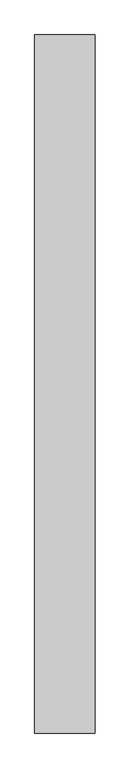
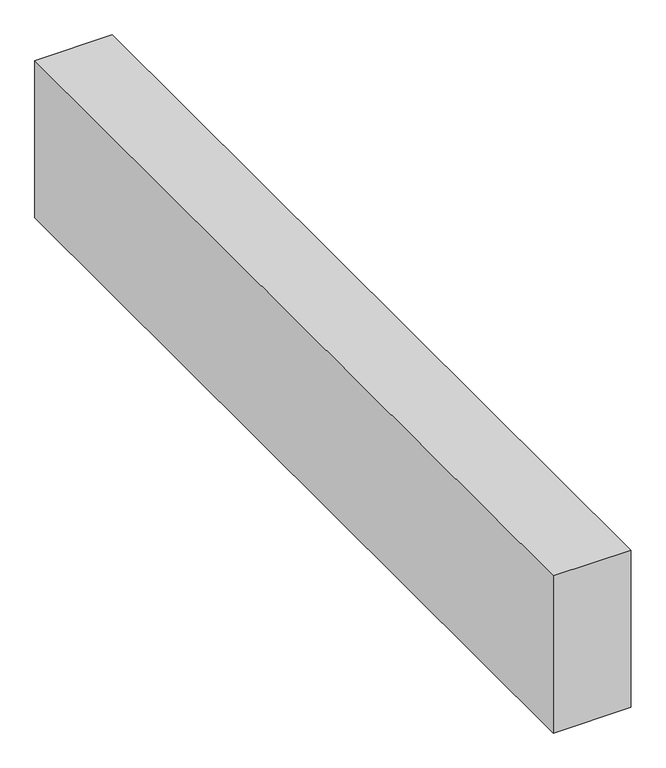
"""IFC4 building model written with IfcOpenShell, lengths in millimetres: proxy geometry."""

from ifc_helpers import new_model, si_unit, frame, origin, place, context, project, spatial, polyline, outline, extrude, source, transform, mapped, element, save


def structural_framing_72c06edc(model_context):
    return source(origin(), model_context, "Body", "SweptSolid", [
        extrude(outline(polyline([(70.0, -811.2), (-70.0, -811.2), (-70.0, 811.2), (70.0, 811.2), (70.0, -811.2)])), frame((0.0, 0.0, -300.0), z_axis=(0.0, 0.0, 1.0), x_axis=(1.0, 0.0, 0.0)), (0.0, 0.0, 1.0), 300.0),
    ])


if __name__ == "__main__":
    model = new_model("IFC4")
    model_context = context("Model", 3, world=origin())
    ifc_project = project(units=[si_unit("LENGTHUNIT", "METRE", prefix="MILLI")], contexts=[model_context])
    site = spatial("IfcSite", under=ifc_project)
    building = spatial("IfcBuilding", under=site)
    placement = place(None, origin())
    structural_framing_shape = structural_framing_72c06edc(model_context)
    element("IfcBuildingElementProxy", 1, Name="Structural Framing", at=placement, inside=building, context=model_context, shape_type="MappedRepresentation", body=[
        mapped(structural_framing_shape, transform((0.0, 0.0, 0.0), x_axis=(1.0, 0.0, 0.0), y_axis=(0.0, 1.0, 0.0), z_axis=(0.0, 0.0, 1.0))),
    ])
    save(model, "model.ifc")
